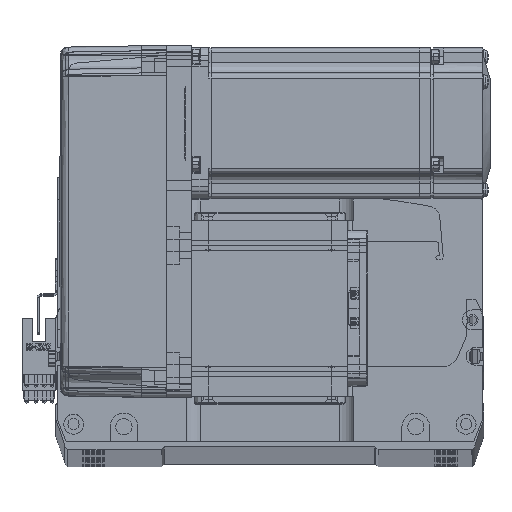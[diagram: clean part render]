
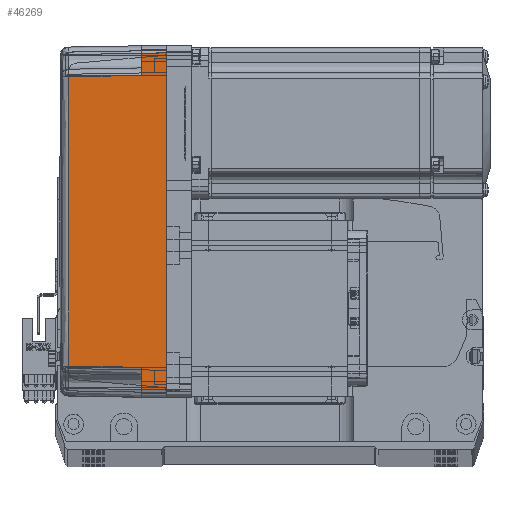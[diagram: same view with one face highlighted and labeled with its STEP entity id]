
A CAD part, top view. The second image highlights one B-rep face of the part: STEP entity #46269.
In plain terms, the highlighted planar face has unit normal (-0.018, 0, 1) as drawn and (0, 1, 0.017) by its records, which use the part's own axes.
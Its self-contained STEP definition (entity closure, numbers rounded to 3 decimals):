
#469 = VERTEX_POINT ( 'NONE', #50610 ) ;
#791 = CARTESIAN_POINT ( 'NONE',  ( 66.826, 35.825, 10. ) ) ;
#1892 = CARTESIAN_POINT ( 'NONE',  ( 57.495, 35.32, 38.985 ) ) ;
#4787 = LINE ( 'NONE', #39074, #35484 ) ;
#5275 = LINE ( 'NONE', #35268, #26934 ) ;
#5717 = EDGE_CURVE ( 'NONE', #9045, #26173, #60837, .T. ) ;
#6336 = ORIENTED_EDGE ( 'NONE', *, *, #19058, .T. ) ;
#7020 = ORIENTED_EDGE ( 'NONE', *, *, #11961, .T. ) ;
#8072 = EDGE_CURVE ( 'NONE', #28601, #57867, #67221, .T. ) ;
#9045 = VERTEX_POINT ( 'NONE', #59034 ) ;
#11506 = DIRECTION ( 'NONE',  ( 0.017, -0.017, 1. ) ) ;
#11961 = EDGE_CURVE ( 'NONE', #469, #26173, #5275, .T. ) ;
#12217 = CARTESIAN_POINT ( 'NONE',  ( 70., 35.825, 10. ) ) ;
#12271 = EDGE_LOOP ( 'NONE', ( #41182, #64550, #6336, #17906, #73390, #7020, #20268, #22550 ) ) ;
#12285 = LINE ( 'NONE', #23333, #14093 ) ;
#12608 = VERTEX_POINT ( 'NONE', #72688 ) ;
#14093 = VECTOR ( 'NONE', #11506, 1000. ) ;
#17906 = ORIENTED_EDGE ( 'NONE', *, *, #28616, .T. ) ;
#19046 = CARTESIAN_POINT ( 'NONE',  ( -66.826, 35.825, 10. ) ) ;
#19058 = EDGE_CURVE ( 'NONE', #57867, #68988, #4787, .T. ) ;
#20268 = ORIENTED_EDGE ( 'NONE', *, *, #5717, .F. ) ;
#22037 = CARTESIAN_POINT ( 'NONE',  ( -19.165, 35.316, 39.181 ) ) ;
#22550 = ORIENTED_EDGE ( 'NONE', *, *, #50268, .F. ) ;
#23333 = CARTESIAN_POINT ( 'NONE',  ( -67., 36., 0. ) ) ;
#23587 = DIRECTION ( 'NONE',  ( 1., 0., 0. ) ) ;
#25149 = DIRECTION ( 'NONE',  ( 0.017, 0.017, -1. ) ) ;
#25841 = CARTESIAN_POINT ( 'NONE',  ( -57.495, 35.32, 38.985 ) ) ;
#26173 = VERTEX_POINT ( 'NONE', #791 ) ;
#26319 = DIRECTION ( 'NONE',  ( 0., -0.017, 1. ) ) ;
#26934 = VECTOR ( 'NONE', #53169, 1000. ) ;
#28601 = VERTEX_POINT ( 'NONE', #19046 ) ;
#28616 = EDGE_CURVE ( 'NONE', #68988, #67066, #43008, .T. ) ;
#29294 = FACE_OUTER_BOUND ( 'NONE', #12271, .T. ) ;
#30518 = VECTOR ( 'NONE', #23587, 1000. ) ;
#35268 = CARTESIAN_POINT ( 'NONE',  ( 70., 35.825, 10. ) ) ;
#35484 = VECTOR ( 'NONE', #68061, 1000. ) ;
#37407 = PLANE ( 'NONE',  #69413 ) ;
#39074 = CARTESIAN_POINT ( 'NONE',  ( -58., 35.825, 10. ) ) ;
#41182 = ORIENTED_EDGE ( 'NONE', *, *, #70886, .T. ) ;
#43008 = B_SPLINE_CURVE_WITH_KNOTS ( 'NONE', 3,
 ( #25841, #22037, #54973, #67580 ),
 .UNSPECIFIED., .F., .F.,
 ( 4, 4 ),
 ( 0., 1. ),
 .UNSPECIFIED. ) ;
#46269 = ADVANCED_FACE ( 'NONE', ( #29294 ), #37407, .T. ) ;
#46499 = VECTOR ( 'NONE', #59091, 1000. ) ;
#48678 = VECTOR ( 'NONE', #25149, 1000. ) ;
#48762 = DIRECTION ( 'NONE',  ( 0., 1., 0.017 ) ) ;
#50268 = EDGE_CURVE ( 'NONE', #12608, #9045, #53950, .T. ) ;
#50610 = CARTESIAN_POINT ( 'NONE',  ( 58., 35.825, 10. ) ) ;
#51609 = CARTESIAN_POINT ( 'NONE',  ( 57.495, 35.32, 38.985 ) ) ;
#53169 = DIRECTION ( 'NONE',  ( 1., 0., 0. ) ) ;
#53950 = LINE ( 'NONE', #56125, #30518 ) ;
#54955 = LINE ( 'NONE', #1892, #48678 ) ;
#54973 = CARTESIAN_POINT ( 'NONE',  ( 19.165, 35.316, 39.181 ) ) ;
#55338 = EDGE_CURVE ( 'NONE', #67066, #469, #54955, .T. ) ;
#56125 = CARTESIAN_POINT ( 'NONE',  ( 0., 36., 0. ) ) ;
#57867 = VERTEX_POINT ( 'NONE', #59269 ) ;
#59031 = VECTOR ( 'NONE', #62149, 1000. ) ;
#59034 = CARTESIAN_POINT ( 'NONE',  ( 67., 36., 0. ) ) ;
#59091 = DIRECTION ( 'NONE',  ( 1., 0., 0. ) ) ;
#59269 = CARTESIAN_POINT ( 'NONE',  ( -58., 35.825, 10. ) ) ;
#60837 = LINE ( 'NONE', #67677, #59031 ) ;
#60867 = CARTESIAN_POINT ( 'NONE',  ( 70., 36., 0. ) ) ;
#62149 = DIRECTION ( 'NONE',  ( -0.017, -0.017, 1. ) ) ;
#64550 = ORIENTED_EDGE ( 'NONE', *, *, #8072, .T. ) ;
#67066 = VERTEX_POINT ( 'NONE', #51609 ) ;
#67221 = LINE ( 'NONE', #12217, #46499 ) ;
#67580 = CARTESIAN_POINT ( 'NONE',  ( 57.495, 35.32, 38.985 ) ) ;
#67677 = CARTESIAN_POINT ( 'NONE',  ( 67.001, 36.001, -0.052 ) ) ;
#68061 = DIRECTION ( 'NONE',  ( 0.017, -0.017, 1. ) ) ;
#68988 = VERTEX_POINT ( 'NONE', #72832 ) ;
#69413 = AXIS2_PLACEMENT_3D ( 'NONE', #60867, #48762, #26319 ) ;
#70886 = EDGE_CURVE ( 'NONE', #12608, #28601, #12285, .T. ) ;
#72688 = CARTESIAN_POINT ( 'NONE',  ( -67., 36., 0. ) ) ;
#72832 = CARTESIAN_POINT ( 'NONE',  ( -57.495, 35.32, 38.985 ) ) ;
#73390 = ORIENTED_EDGE ( 'NONE', *, *, #55338, .T. ) ;
